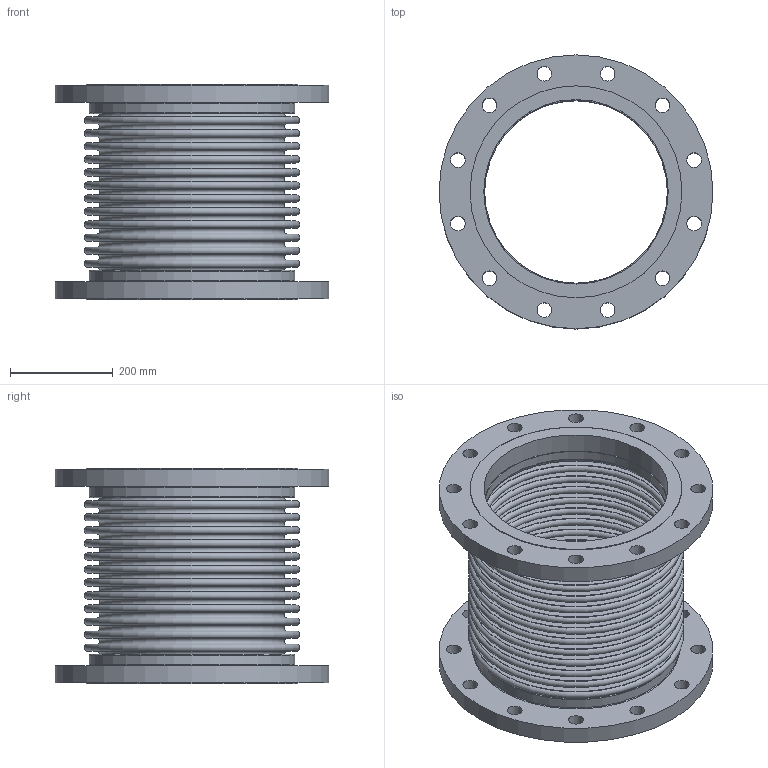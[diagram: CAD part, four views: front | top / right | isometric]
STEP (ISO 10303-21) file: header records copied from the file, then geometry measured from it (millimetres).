
FILE_DESCRIPTION(/* description */ ('EXPANSION JOINT,SINGLE, FLANGED ENDS,14 INCH','CAx-IF Rec.Pracs.---Representation and Presentation of Product Manufacturing Information (PMI)---4.0---2014-10-13'),/* implementation_level */ '2;1');
FILE_NAME(/* name */ 'US-14-12-150L-FLANGED ENDS.stp',/* time_stamp */ '2026-07-31T17:30:37-05:00',/* author */ ('Guadalupe'),/* organization */ (''),/* preprocessor_version */ 'ST-DEVELOPER v20.1',/* originating_system */ 'Autodesk Inventor 2026',/* authorisation */ '');
FILE_SCHEMA (('AP242_MANAGED_MODEL_BASED_3D_ENGINEERING_MIM_LF { 1 0 10303 442 2 1 4 }'));
Length unit declared in the file: inch
Products named in the file (3): 14-150L; 14-150L-02; 14-150L-01
Assembly tree (3 placements, depth 2):
  14-150L
    14-150L-02  x2
    14-150L-01
Bounding box: 533.4 x 533.4 x 419.1 mm (x, y, z)
Volume: 10538760.3 mm3; surface area: 3111535.7 mm2
Topology: 5 solids, 5 shells, 152 faces, 270 edges, 180 vertices
Faces by surface type: plane 62, torus 54, cylinder 36
Full cylindrical faces by diameter (mm): 28.575 x24, 355.6 x2, 358.648 x2, 359.156 x2, 400.05 x2, 412.75 x2, 533.4 x2
Entity records: 3450 total; most frequent: DIRECTION 710, CARTESIAN_POINT 513, ORIENTED_EDGE 432, AXIS2_PLACEMENT_3D 345, EDGE_CURVE 216, EDGE_LOOP 212, CIRCLE 196, VERTEX_POINT 144
